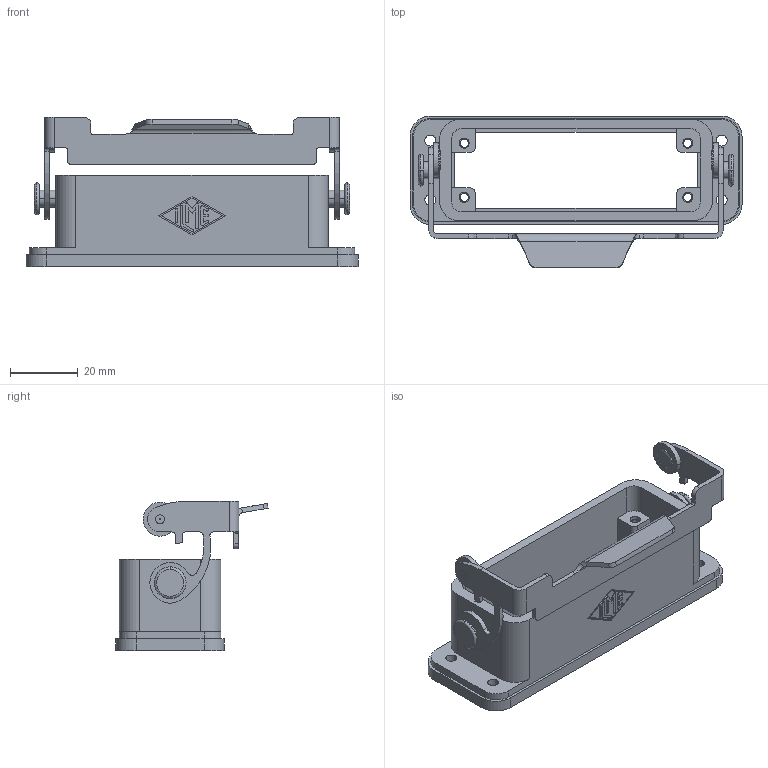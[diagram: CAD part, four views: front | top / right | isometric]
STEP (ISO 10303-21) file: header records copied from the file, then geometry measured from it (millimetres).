
FILE_DESCRIPTION((''),'2;1');
FILE_NAME('B:\MITARBEITER\Gembarski\Inventor\TEMP\Konvertierungsformate\IPT\STP\CZI 25 L.stp','2006-12-13T12:59:30',('gembarski'),(''),'Autodesk Inventor 7','Autodesk Inventor 7','');
FILE_SCHEMA(('AUTOMOTIVE_DESIGN { 1 0 10303 214 1 1 1 1 }'));
Length unit declared in the file: millimetre
Products named in the file (1): CZ_MZ Gehäuse 1 Bügel
Bounding box: 98 x 44.9 x 44 mm (x, y, z)
Volume: 24725.5 mm3; surface area: 21276.5 mm2
Topology: 3 solids, 3 shells, 314 faces, 825 edges, 544 vertices
Faces by surface type: plane 115, cylinder 102, bspline 87, cone 6, torus 4
Entity records: 11212 total; most frequent: CARTESIAN_POINT 3417, ORIENTED_EDGE 1634, DIRECTION 1601, EDGE_CURVE 817, AXIS2_PLACEMENT_3D 566, VERTEX_POINT 544, VECTOR 469, LINE 469
